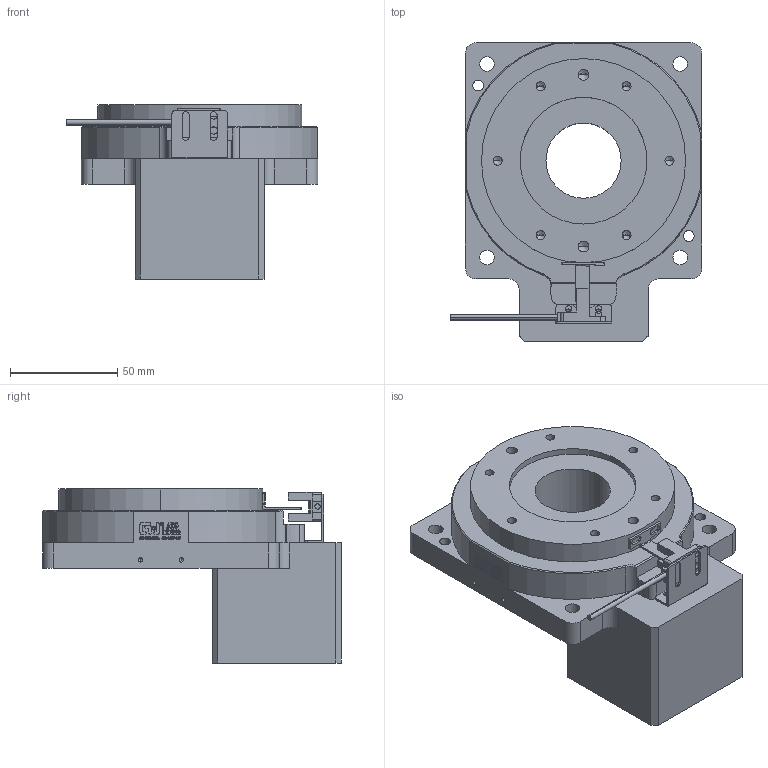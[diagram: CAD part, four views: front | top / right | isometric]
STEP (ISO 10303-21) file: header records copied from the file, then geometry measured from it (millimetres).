
FILE_DESCRIPTION (( 'STEP AP214' ), '1' );
FILE_NAME ('GT110-C-10-14-50-70-M4-2.STEP', '2024-07-02T02:54:02', ( '' ), ( '' ), 'SwSTEP 2.0', 'SolidWorks 2021', '' );
FILE_SCHEMA (( 'AUTOMOTIVE_DESIGN' ));
Length unit declared in the file: millimetre
Products named in the file (1): GT110-C-10-14-50-70-M4-2
Bounding box: 117.03 x 139 x 81 mm (x, y, z)
Volume: 490357 mm3; surface area: 62979.7 mm2
Topology: 4 solids, 6 shells, 1136 faces, 3094 edges, 2026 vertices
Faces by surface type: plane 642, bspline 306, cylinder 142, cone 46
Entity records: 52632 total; most frequent: CARTESIAN_POINT 22527, ORIENTED_EDGE 6108, DIRECTION 4388, EDGE_CURVE 3054, VECTOR 2142, LINE 2142, VERTEX_POINT 2026, EDGE_LOOP 1262
